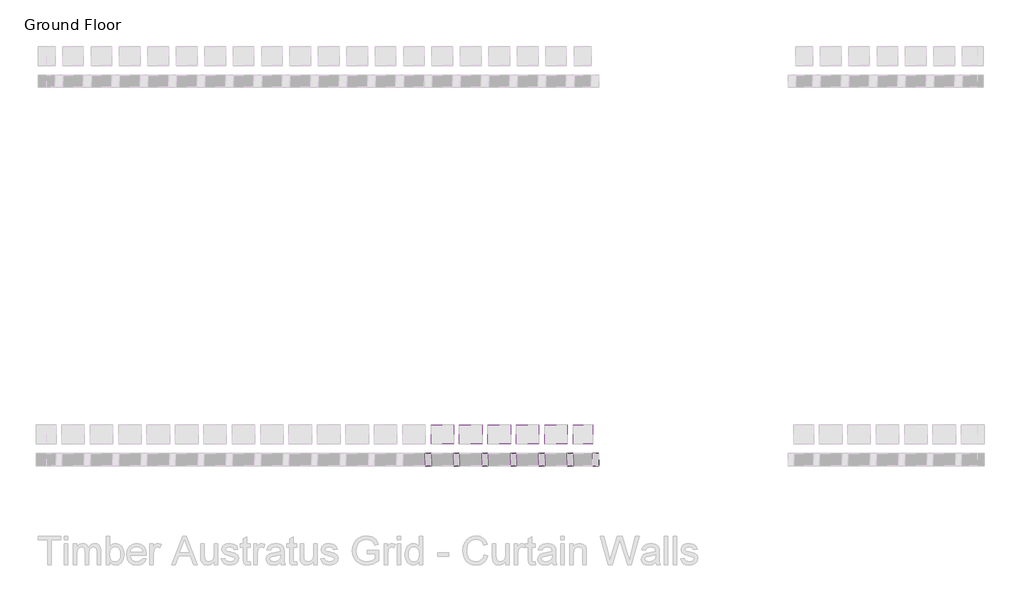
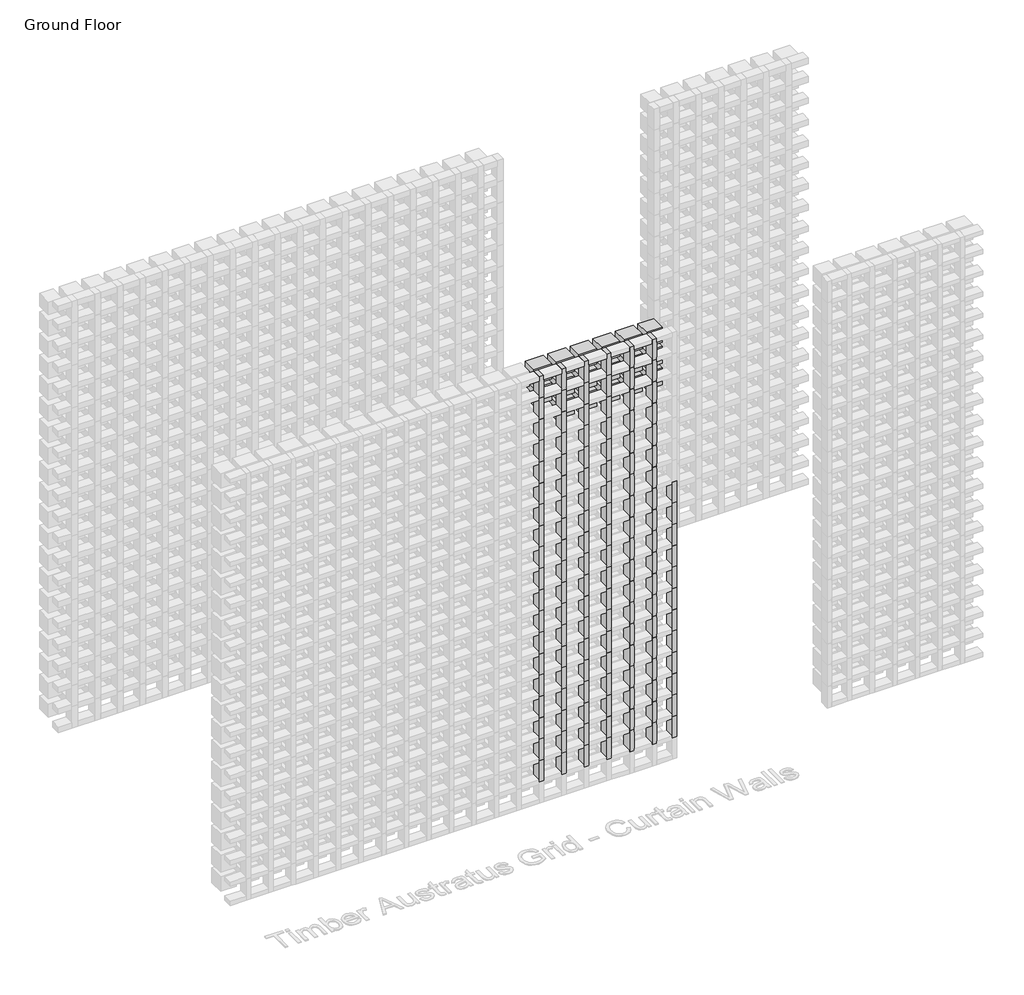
# One storey, part 53 of 350: 126 members, 17 plates.
"""IFC4 building model written with IfcOpenShell, lengths in millimetres."""

from ifc_helpers import new_model, si_unit, origin, place, context, project, spatial, transform, mapped, element, save
from components import rectangular_mullion_5b501421, rectangular_mullion_a9727e9f, empty_system_panel_empty_a57e421f, empty_system_panel_empty_fe50b430, empty_system_panel_empty_3353a095, empty_system_panel_empty_0cf761f0

model = new_model("IFC4")

# Units and contexts
model_context = context("Model", 3, world=origin())
ifc_project = project(units=[si_unit("LENGTHUNIT", "METRE", prefix="MILLI")], contexts=[model_context])

# Site, building, storey
site = spatial("IfcSite", under=ifc_project)
building = spatial("IfcBuilding", under=site)
storey = spatial("IfcBuildingStorey", under=building, Name="Ground Floor", Elevation=0.0)

# Members
placement = place(None, origin())
rectangular_mullion_shape = rectangular_mullion_5b501421(model_context)
element("IfcMember", 1, ObjectType="Rectangular Mullion : Batten_Timber_Modinex_Austratus_Grid_Fascia_30x65_AlaskanYellowCedar", at=placement, inside=storey, context=model_context, shape_type="MappedRepresentation", body=[
    mapped(rectangular_mullion_shape, transform((4016.4361642, 38968.2978302, 150.0), x_axis=(1.0, 0.0, 0.0), y_axis=(0.0, -1.0, 0.0), z_axis=(0.0, 0.0, -1.0))),
])
element("IfcMember", 2, ObjectType="Rectangular Mullion : Batten_Timber_Modinex_Austratus_Grid_Fascia_30x65_AlaskanYellowCedar", at=placement, inside=storey, context=model_context, shape_type="MappedRepresentation", body=[
    mapped(rectangular_mullion_shape, transform((4016.4361642, 38968.2978302, 300.0), x_axis=(1.0, 0.0, 0.0), y_axis=(0.0, -1.0, 0.0), z_axis=(0.0, 0.0, -1.0))),
])
element("IfcMember", 3, ObjectType="Rectangular Mullion : Batten_Timber_Modinex_Austratus_Grid_Fascia_30x65_AlaskanYellowCedar", at=placement, inside=storey, context=model_context, shape_type="MappedRepresentation", body=[
    mapped(rectangular_mullion_shape, transform((4016.4361642, 38968.2978302, 450.0), x_axis=(1.0, 0.0, 0.0), y_axis=(0.0, -1.0, 0.0), z_axis=(0.0, 0.0, -1.0))),
])
element("IfcMember", 4, ObjectType="Rectangular Mullion : Batten_Timber_Modinex_Austratus_Grid_Fascia_30x65_AlaskanYellowCedar", at=placement, inside=storey, context=model_context, shape_type="MappedRepresentation", body=[
    mapped(rectangular_mullion_shape, transform((4016.4361642, 38968.2978302, 600.0), x_axis=(1.0, 0.0, 0.0), y_axis=(0.0, -1.0, 0.0), z_axis=(0.0, 0.0, -1.0))),
])
element("IfcMember", 5, ObjectType="Rectangular Mullion : Batten_Timber_Modinex_Austratus_Grid_Fascia_30x65_AlaskanYellowCedar", at=placement, inside=storey, context=model_context, shape_type="MappedRepresentation", body=[
    mapped(rectangular_mullion_shape, transform((4016.4361642, 38968.2978302, 750.0), x_axis=(1.0, 0.0, 0.0), y_axis=(0.0, -1.0, 0.0), z_axis=(0.0, 0.0, -1.0))),
])
element("IfcMember", 6, ObjectType="Rectangular Mullion : Batten_Timber_Modinex_Austratus_Grid_Fascia_30x65_AlaskanYellowCedar", at=placement, inside=storey, context=model_context, shape_type="MappedRepresentation", body=[
    mapped(rectangular_mullion_shape, transform((4016.4361642, 38968.2978302, 900.0), x_axis=(1.0, 0.0, 0.0), y_axis=(0.0, -1.0, 0.0), z_axis=(0.0, 0.0, -1.0))),
])
element("IfcMember", 7, ObjectType="Rectangular Mullion : Batten_Timber_Modinex_Austratus_Grid_Fascia_30x65_AlaskanYellowCedar", at=placement, inside=storey, context=model_context, shape_type="MappedRepresentation", body=[
    mapped(rectangular_mullion_shape, transform((4016.4361642, 38968.2978302, 1050.0), x_axis=(1.0, 0.0, 0.0), y_axis=(0.0, -1.0, 0.0), z_axis=(0.0, 0.0, -1.0))),
])
element("IfcMember", 8, ObjectType="Rectangular Mullion : Batten_Timber_Modinex_Austratus_Grid_Fascia_30x65_AlaskanYellowCedar", at=placement, inside=storey, context=model_context, shape_type="MappedRepresentation", body=[
    mapped(rectangular_mullion_shape, transform((4016.4361642, 38968.2978302, 1200.0), x_axis=(1.0, 0.0, 0.0), y_axis=(0.0, -1.0, 0.0), z_axis=(0.0, 0.0, -1.0))),
])
element("IfcMember", 9, ObjectType="Rectangular Mullion : Batten_Timber_Modinex_Austratus_Grid_Fascia_30x65_AlaskanYellowCedar", at=placement, inside=storey, context=model_context, shape_type="MappedRepresentation", body=[
    mapped(rectangular_mullion_shape, transform((4016.4361642, 38968.2978302, 1350.0), x_axis=(1.0, 0.0, 0.0), y_axis=(0.0, -1.0, 0.0), z_axis=(0.0, 0.0, -1.0))),
])
element("IfcMember", 10, ObjectType="Rectangular Mullion : Batten_Timber_Modinex_Austratus_Grid_Fascia_30x65_AlaskanYellowCedar", at=placement, inside=storey, context=model_context, shape_type="MappedRepresentation", body=[
    mapped(rectangular_mullion_shape, transform((4016.4361642, 38968.2978302, 1500.0), x_axis=(1.0, 0.0, 0.0), y_axis=(0.0, -1.0, 0.0), z_axis=(0.0, 0.0, -1.0))),
])
element("IfcMember", 11, ObjectType="Rectangular Mullion : Batten_Timber_Modinex_Austratus_Grid_Fascia_30x65_AlaskanYellowCedar", at=placement, inside=storey, context=model_context, shape_type="MappedRepresentation", body=[
    mapped(rectangular_mullion_shape, transform((4016.4361642, 38968.2978302, 1650.0), x_axis=(1.0, 0.0, 0.0), y_axis=(0.0, -1.0, 0.0), z_axis=(0.0, 0.0, -1.0))),
])
element("IfcMember", 12, ObjectType="Rectangular Mullion : Batten_Timber_Modinex_Austratus_Grid_Fascia_30x65_AlaskanYellowCedar", at=placement, inside=storey, context=model_context, shape_type="MappedRepresentation", body=[
    mapped(rectangular_mullion_shape, transform((4016.4361642, 38968.2978302, 1800.0), x_axis=(1.0, 0.0, 0.0), y_axis=(0.0, -1.0, 0.0), z_axis=(0.0, 0.0, -1.0))),
])
element("IfcMember", 13, ObjectType="Rectangular Mullion : Batten_Timber_Modinex_Austratus_Grid_Fascia_30x65_AlaskanYellowCedar", at=placement, inside=storey, context=model_context, shape_type="MappedRepresentation", body=[
    mapped(rectangular_mullion_shape, transform((4016.4361642, 38968.2978302, 1950.0), x_axis=(1.0, 0.0, 0.0), y_axis=(0.0, -1.0, 0.0), z_axis=(0.0, 0.0, -1.0))),
])
element("IfcMember", 14, ObjectType="Rectangular Mullion : Batten_Timber_Modinex_Austratus_Grid_Fascia_30x65_AlaskanYellowCedar", at=placement, inside=storey, context=model_context, shape_type="MappedRepresentation", body=[
    mapped(rectangular_mullion_shape, transform((4016.4361642, 38968.2978302, 2100.0), x_axis=(1.0, 0.0, 0.0), y_axis=(0.0, -1.0, 0.0), z_axis=(0.0, 0.0, -1.0))),
])
element("IfcMember", 15, ObjectType="Rectangular Mullion : Batten_Timber_Modinex_Austratus_Grid_Fascia_30x65_AlaskanYellowCedar", at=placement, inside=storey, context=model_context, shape_type="MappedRepresentation", body=[
    mapped(rectangular_mullion_shape, transform((4016.4361642, 38968.2978302, 2250.0), x_axis=(1.0, 0.0, 0.0), y_axis=(0.0, -1.0, 0.0), z_axis=(0.0, 0.0, -1.0))),
])
element("IfcMember", 16, ObjectType="Rectangular Mullion : Batten_Timber_Modinex_Austratus_Grid_Fascia_30x65_AlaskanYellowCedar", at=placement, inside=storey, context=model_context, shape_type="MappedRepresentation", body=[
    mapped(rectangular_mullion_shape, transform((4016.4361642, 38968.2978302, 2400.0), x_axis=(1.0, 0.0, 0.0), y_axis=(0.0, -1.0, 0.0), z_axis=(0.0, 0.0, -1.0))),
])
element("IfcMember", 17, ObjectType="Rectangular Mullion : Batten_Timber_Modinex_Austratus_Grid_Fascia_30x65_AlaskanYellowCedar", at=placement, inside=storey, context=model_context, shape_type="MappedRepresentation", body=[
    mapped(rectangular_mullion_shape, transform((4016.4361642, 38968.2978302, 2550.0), x_axis=(1.0, 0.0, 0.0), y_axis=(0.0, -1.0, 0.0), z_axis=(0.0, 0.0, -1.0))),
])
element("IfcMember", 18, ObjectType="Rectangular Mullion : Batten_Timber_Modinex_Austratus_Grid_Fascia_30x65_AlaskanYellowCedar", at=placement, inside=storey, context=model_context, shape_type="MappedRepresentation", body=[
    mapped(rectangular_mullion_shape, transform((4016.4361642, 38968.2978302, 2700.0), x_axis=(1.0, 0.0, 0.0), y_axis=(0.0, -1.0, 0.0), z_axis=(0.0, 0.0, -1.0))),
])
element("IfcMember", 19, ObjectType="Rectangular Mullion : Batten_Timber_Modinex_Austratus_Grid_Fascia_30x65_AlaskanYellowCedar", at=placement, inside=storey, context=model_context, shape_type="MappedRepresentation", body=[
    mapped(rectangular_mullion_shape, transform((4166.4361642, 38968.2978302, 150.0), x_axis=(1.0, 0.0, 0.0), y_axis=(0.0, -1.0, 0.0), z_axis=(0.0, 0.0, -1.0))),
])
element("IfcMember", 20, ObjectType="Rectangular Mullion : Batten_Timber_Modinex_Austratus_Grid_Fascia_30x65_AlaskanYellowCedar", at=placement, inside=storey, context=model_context, shape_type="MappedRepresentation", body=[
    mapped(rectangular_mullion_shape, transform((4166.4361642, 38968.2978302, 300.0), x_axis=(1.0, 0.0, 0.0), y_axis=(0.0, -1.0, 0.0), z_axis=(0.0, 0.0, -1.0))),
])
element("IfcMember", 21, ObjectType="Rectangular Mullion : Batten_Timber_Modinex_Austratus_Grid_Fascia_30x65_AlaskanYellowCedar", at=placement, inside=storey, context=model_context, shape_type="MappedRepresentation", body=[
    mapped(rectangular_mullion_shape, transform((4166.4361642, 38968.2978302, 450.0), x_axis=(1.0, 0.0, 0.0), y_axis=(0.0, -1.0, 0.0), z_axis=(0.0, 0.0, -1.0))),
])
element("IfcMember", 22, ObjectType="Rectangular Mullion : Batten_Timber_Modinex_Austratus_Grid_Fascia_30x65_AlaskanYellowCedar", at=placement, inside=storey, context=model_context, shape_type="MappedRepresentation", body=[
    mapped(rectangular_mullion_shape, transform((4166.4361642, 38968.2978302, 600.0), x_axis=(1.0, 0.0, 0.0), y_axis=(0.0, -1.0, 0.0), z_axis=(0.0, 0.0, -1.0))),
])
element("IfcMember", 23, ObjectType="Rectangular Mullion : Batten_Timber_Modinex_Austratus_Grid_Fascia_30x65_AlaskanYellowCedar", at=placement, inside=storey, context=model_context, shape_type="MappedRepresentation", body=[
    mapped(rectangular_mullion_shape, transform((4166.4361642, 38968.2978302, 750.0), x_axis=(1.0, 0.0, 0.0), y_axis=(0.0, -1.0, 0.0), z_axis=(0.0, 0.0, -1.0))),
])
element("IfcMember", 24, ObjectType="Rectangular Mullion : Batten_Timber_Modinex_Austratus_Grid_Fascia_30x65_AlaskanYellowCedar", at=placement, inside=storey, context=model_context, shape_type="MappedRepresentation", body=[
    mapped(rectangular_mullion_shape, transform((4166.4361642, 38968.2978302, 900.0), x_axis=(1.0, 0.0, 0.0), y_axis=(0.0, -1.0, 0.0), z_axis=(0.0, 0.0, -1.0))),
])
element("IfcMember", 25, ObjectType="Rectangular Mullion : Batten_Timber_Modinex_Austratus_Grid_Fascia_30x65_AlaskanYellowCedar", at=placement, inside=storey, context=model_context, shape_type="MappedRepresentation", body=[
    mapped(rectangular_mullion_shape, transform((4166.4361642, 38968.2978302, 1050.0), x_axis=(1.0, 0.0, 0.0), y_axis=(0.0, -1.0, 0.0), z_axis=(0.0, 0.0, -1.0))),
])
element("IfcMember", 26, ObjectType="Rectangular Mullion : Batten_Timber_Modinex_Austratus_Grid_Fascia_30x65_AlaskanYellowCedar", at=placement, inside=storey, context=model_context, shape_type="MappedRepresentation", body=[
    mapped(rectangular_mullion_shape, transform((4166.4361642, 38968.2978302, 1200.0), x_axis=(1.0, 0.0, 0.0), y_axis=(0.0, -1.0, 0.0), z_axis=(0.0, 0.0, -1.0))),
])
element("IfcMember", 27, ObjectType="Rectangular Mullion : Batten_Timber_Modinex_Austratus_Grid_Fascia_30x65_AlaskanYellowCedar", at=placement, inside=storey, context=model_context, shape_type="MappedRepresentation", body=[
    mapped(rectangular_mullion_shape, transform((4166.4361642, 38968.2978302, 1350.0), x_axis=(1.0, 0.0, 0.0), y_axis=(0.0, -1.0, 0.0), z_axis=(0.0, 0.0, -1.0))),
])
element("IfcMember", 28, ObjectType="Rectangular Mullion : Batten_Timber_Modinex_Austratus_Grid_Fascia_30x65_AlaskanYellowCedar", at=placement, inside=storey, context=model_context, shape_type="MappedRepresentation", body=[
    mapped(rectangular_mullion_shape, transform((4166.4361642, 38968.2978302, 1500.0), x_axis=(1.0, 0.0, 0.0), y_axis=(0.0, -1.0, 0.0), z_axis=(0.0, 0.0, -1.0))),
])
element("IfcMember", 29, ObjectType="Rectangular Mullion : Batten_Timber_Modinex_Austratus_Grid_Fascia_30x65_AlaskanYellowCedar", at=placement, inside=storey, context=model_context, shape_type="MappedRepresentation", body=[
    mapped(rectangular_mullion_shape, transform((4166.4361642, 38968.2978302, 1650.0), x_axis=(1.0, 0.0, 0.0), y_axis=(0.0, -1.0, 0.0), z_axis=(0.0, 0.0, -1.0))),
])
element("IfcMember", 30, ObjectType="Rectangular Mullion : Batten_Timber_Modinex_Austratus_Grid_Fascia_30x65_AlaskanYellowCedar", at=placement, inside=storey, context=model_context, shape_type="MappedRepresentation", body=[
    mapped(rectangular_mullion_shape, transform((4166.4361642, 38968.2978302, 1800.0), x_axis=(1.0, 0.0, 0.0), y_axis=(0.0, -1.0, 0.0), z_axis=(0.0, 0.0, -1.0))),
])
element("IfcMember", 31, ObjectType="Rectangular Mullion : Batten_Timber_Modinex_Austratus_Grid_Fascia_30x65_AlaskanYellowCedar", at=placement, inside=storey, context=model_context, shape_type="MappedRepresentation", body=[
    mapped(rectangular_mullion_shape, transform((4166.4361642, 38968.2978302, 1950.0), x_axis=(1.0, 0.0, 0.0), y_axis=(0.0, -1.0, 0.0), z_axis=(0.0, 0.0, -1.0))),
])
element("IfcMember", 32, ObjectType="Rectangular Mullion : Batten_Timber_Modinex_Austratus_Grid_Fascia_30x65_AlaskanYellowCedar", at=placement, inside=storey, context=model_context, shape_type="MappedRepresentation", body=[
    mapped(rectangular_mullion_shape, transform((4166.4361642, 38968.2978302, 2100.0), x_axis=(1.0, 0.0, 0.0), y_axis=(0.0, -1.0, 0.0), z_axis=(0.0, 0.0, -1.0))),
])
element("IfcMember", 33, ObjectType="Rectangular Mullion : Batten_Timber_Modinex_Austratus_Grid_Fascia_30x65_AlaskanYellowCedar", at=placement, inside=storey, context=model_context, shape_type="MappedRepresentation", body=[
    mapped(rectangular_mullion_shape, transform((4166.4361642, 38968.2978302, 2250.0), x_axis=(1.0, 0.0, 0.0), y_axis=(0.0, -1.0, 0.0), z_axis=(0.0, 0.0, -1.0))),
])
element("IfcMember", 34, ObjectType="Rectangular Mullion : Batten_Timber_Modinex_Austratus_Grid_Fascia_30x65_AlaskanYellowCedar", at=placement, inside=storey, context=model_context, shape_type="MappedRepresentation", body=[
    mapped(rectangular_mullion_shape, transform((4166.4361642, 38968.2978302, 2400.0), x_axis=(1.0, 0.0, 0.0), y_axis=(0.0, -1.0, 0.0), z_axis=(0.0, 0.0, -1.0))),
])
element("IfcMember", 35, ObjectType="Rectangular Mullion : Batten_Timber_Modinex_Austratus_Grid_Fascia_30x65_AlaskanYellowCedar", at=placement, inside=storey, context=model_context, shape_type="MappedRepresentation", body=[
    mapped(rectangular_mullion_shape, transform((4166.4361642, 38968.2978302, 2550.0), x_axis=(1.0, 0.0, 0.0), y_axis=(0.0, -1.0, 0.0), z_axis=(0.0, 0.0, -1.0))),
])
element("IfcMember", 36, ObjectType="Rectangular Mullion : Batten_Timber_Modinex_Austratus_Grid_Fascia_30x65_AlaskanYellowCedar", at=placement, inside=storey, context=model_context, shape_type="MappedRepresentation", body=[
    mapped(rectangular_mullion_shape, transform((4166.4361642, 38968.2978302, 2700.0), x_axis=(1.0, 0.0, 0.0), y_axis=(0.0, -1.0, 0.0), z_axis=(0.0, 0.0, -1.0))),
])
element("IfcMember", 37, ObjectType="Rectangular Mullion : Batten_Timber_Modinex_Austratus_Grid_Fascia_30x65_AlaskanYellowCedar", at=placement, inside=storey, context=model_context, shape_type="MappedRepresentation", body=[
    mapped(rectangular_mullion_shape, transform((4316.4361642, 38968.2978302, 150.0), x_axis=(1.0, 0.0, 0.0), y_axis=(0.0, -1.0, 0.0), z_axis=(0.0, 0.0, -1.0))),
])
element("IfcMember", 38, ObjectType="Rectangular Mullion : Batten_Timber_Modinex_Austratus_Grid_Fascia_30x65_AlaskanYellowCedar", at=placement, inside=storey, context=model_context, shape_type="MappedRepresentation", body=[
    mapped(rectangular_mullion_shape, transform((4316.4361642, 38968.2978302, 300.0), x_axis=(1.0, 0.0, 0.0), y_axis=(0.0, -1.0, 0.0), z_axis=(0.0, 0.0, -1.0))),
])
element("IfcMember", 39, ObjectType="Rectangular Mullion : Batten_Timber_Modinex_Austratus_Grid_Fascia_30x65_AlaskanYellowCedar", at=placement, inside=storey, context=model_context, shape_type="MappedRepresentation", body=[
    mapped(rectangular_mullion_shape, transform((4316.4361642, 38968.2978302, 450.0), x_axis=(1.0, 0.0, 0.0), y_axis=(0.0, -1.0, 0.0), z_axis=(0.0, 0.0, -1.0))),
])
element("IfcMember", 40, ObjectType="Rectangular Mullion : Batten_Timber_Modinex_Austratus_Grid_Fascia_30x65_AlaskanYellowCedar", at=placement, inside=storey, context=model_context, shape_type="MappedRepresentation", body=[
    mapped(rectangular_mullion_shape, transform((4316.4361642, 38968.2978302, 600.0), x_axis=(1.0, 0.0, 0.0), y_axis=(0.0, -1.0, 0.0), z_axis=(0.0, 0.0, -1.0))),
])
element("IfcMember", 41, ObjectType="Rectangular Mullion : Batten_Timber_Modinex_Austratus_Grid_Fascia_30x65_AlaskanYellowCedar", at=placement, inside=storey, context=model_context, shape_type="MappedRepresentation", body=[
    mapped(rectangular_mullion_shape, transform((4316.4361642, 38968.2978302, 750.0), x_axis=(1.0, 0.0, 0.0), y_axis=(0.0, -1.0, 0.0), z_axis=(0.0, 0.0, -1.0))),
])
element("IfcMember", 42, ObjectType="Rectangular Mullion : Batten_Timber_Modinex_Austratus_Grid_Fascia_30x65_AlaskanYellowCedar", at=placement, inside=storey, context=model_context, shape_type="MappedRepresentation", body=[
    mapped(rectangular_mullion_shape, transform((4316.4361642, 38968.2978302, 900.0), x_axis=(1.0, 0.0, 0.0), y_axis=(0.0, -1.0, 0.0), z_axis=(0.0, 0.0, -1.0))),
])
element("IfcMember", 43, ObjectType="Rectangular Mullion : Batten_Timber_Modinex_Austratus_Grid_Fascia_30x65_AlaskanYellowCedar", at=placement, inside=storey, context=model_context, shape_type="MappedRepresentation", body=[
    mapped(rectangular_mullion_shape, transform((4316.4361642, 38968.2978302, 1050.0), x_axis=(1.0, 0.0, 0.0), y_axis=(0.0, -1.0, 0.0), z_axis=(0.0, 0.0, -1.0))),
])
element("IfcMember", 44, ObjectType="Rectangular Mullion : Batten_Timber_Modinex_Austratus_Grid_Fascia_30x65_AlaskanYellowCedar", at=placement, inside=storey, context=model_context, shape_type="MappedRepresentation", body=[
    mapped(rectangular_mullion_shape, transform((4316.4361642, 38968.2978302, 1200.0), x_axis=(1.0, 0.0, 0.0), y_axis=(0.0, -1.0, 0.0), z_axis=(0.0, 0.0, -1.0))),
])
element("IfcMember", 45, ObjectType="Rectangular Mullion : Batten_Timber_Modinex_Austratus_Grid_Fascia_30x65_AlaskanYellowCedar", at=placement, inside=storey, context=model_context, shape_type="MappedRepresentation", body=[
    mapped(rectangular_mullion_shape, transform((4316.4361642, 38968.2978302, 1350.0), x_axis=(1.0, 0.0, 0.0), y_axis=(0.0, -1.0, 0.0), z_axis=(0.0, 0.0, -1.0))),
])
element("IfcMember", 46, ObjectType="Rectangular Mullion : Batten_Timber_Modinex_Austratus_Grid_Fascia_30x65_AlaskanYellowCedar", at=placement, inside=storey, context=model_context, shape_type="MappedRepresentation", body=[
    mapped(rectangular_mullion_shape, transform((4316.4361642, 38968.2978302, 1500.0), x_axis=(1.0, 0.0, 0.0), y_axis=(0.0, -1.0, 0.0), z_axis=(0.0, 0.0, -1.0))),
])
element("IfcMember", 47, ObjectType="Rectangular Mullion : Batten_Timber_Modinex_Austratus_Grid_Fascia_30x65_AlaskanYellowCedar", at=placement, inside=storey, context=model_context, shape_type="MappedRepresentation", body=[
    mapped(rectangular_mullion_shape, transform((4316.4361642, 38968.2978302, 1650.0), x_axis=(1.0, 0.0, 0.0), y_axis=(0.0, -1.0, 0.0), z_axis=(0.0, 0.0, -1.0))),
])
element("IfcMember", 48, ObjectType="Rectangular Mullion : Batten_Timber_Modinex_Austratus_Grid_Fascia_30x65_AlaskanYellowCedar", at=placement, inside=storey, context=model_context, shape_type="MappedRepresentation", body=[
    mapped(rectangular_mullion_shape, transform((4316.4361642, 38968.2978302, 1800.0), x_axis=(1.0, 0.0, 0.0), y_axis=(0.0, -1.0, 0.0), z_axis=(0.0, 0.0, -1.0))),
])
element("IfcMember", 49, ObjectType="Rectangular Mullion : Batten_Timber_Modinex_Austratus_Grid_Fascia_30x65_AlaskanYellowCedar", at=placement, inside=storey, context=model_context, shape_type="MappedRepresentation", body=[
    mapped(rectangular_mullion_shape, transform((4316.4361642, 38968.2978302, 1950.0), x_axis=(1.0, 0.0, 0.0), y_axis=(0.0, -1.0, 0.0), z_axis=(0.0, 0.0, -1.0))),
])
element("IfcMember", 50, ObjectType="Rectangular Mullion : Batten_Timber_Modinex_Austratus_Grid_Fascia_30x65_AlaskanYellowCedar", at=placement, inside=storey, context=model_context, shape_type="MappedRepresentation", body=[
    mapped(rectangular_mullion_shape, transform((4316.4361642, 38968.2978302, 2100.0), x_axis=(1.0, 0.0, 0.0), y_axis=(0.0, -1.0, 0.0), z_axis=(0.0, 0.0, -1.0))),
])
element("IfcMember", 51, ObjectType="Rectangular Mullion : Batten_Timber_Modinex_Austratus_Grid_Fascia_30x65_AlaskanYellowCedar", at=placement, inside=storey, context=model_context, shape_type="MappedRepresentation", body=[
    mapped(rectangular_mullion_shape, transform((4316.4361642, 38968.2978302, 2250.0), x_axis=(1.0, 0.0, 0.0), y_axis=(0.0, -1.0, 0.0), z_axis=(0.0, 0.0, -1.0))),
])
element("IfcMember", 52, ObjectType="Rectangular Mullion : Batten_Timber_Modinex_Austratus_Grid_Fascia_30x65_AlaskanYellowCedar", at=placement, inside=storey, context=model_context, shape_type="MappedRepresentation", body=[
    mapped(rectangular_mullion_shape, transform((4316.4361642, 38968.2978302, 2400.0), x_axis=(1.0, 0.0, 0.0), y_axis=(0.0, -1.0, 0.0), z_axis=(0.0, 0.0, -1.0))),
])
element("IfcMember", 53, ObjectType="Rectangular Mullion : Batten_Timber_Modinex_Austratus_Grid_Fascia_30x65_AlaskanYellowCedar", at=placement, inside=storey, context=model_context, shape_type="MappedRepresentation", body=[
    mapped(rectangular_mullion_shape, transform((4316.4361642, 38968.2978302, 2550.0), x_axis=(1.0, 0.0, 0.0), y_axis=(0.0, -1.0, 0.0), z_axis=(0.0, 0.0, -1.0))),
])
element("IfcMember", 54, ObjectType="Rectangular Mullion : Batten_Timber_Modinex_Austratus_Grid_Fascia_30x65_AlaskanYellowCedar", at=placement, inside=storey, context=model_context, shape_type="MappedRepresentation", body=[
    mapped(rectangular_mullion_shape, transform((4316.4361642, 38968.2978302, 2700.0), x_axis=(1.0, 0.0, 0.0), y_axis=(0.0, -1.0, 0.0), z_axis=(0.0, 0.0, -1.0))),
])
element("IfcMember", 55, ObjectType="Rectangular Mullion : Batten_Timber_Modinex_Austratus_Grid_Fascia_30x65_AlaskanYellowCedar", at=placement, inside=storey, context=model_context, shape_type="MappedRepresentation", body=[
    mapped(rectangular_mullion_shape, transform((4466.4361642, 38968.2978302, 150.0), x_axis=(1.0, 0.0, 0.0), y_axis=(0.0, -1.0, 0.0), z_axis=(0.0, 0.0, -1.0))),
])
element("IfcMember", 56, ObjectType="Rectangular Mullion : Batten_Timber_Modinex_Austratus_Grid_Fascia_30x65_AlaskanYellowCedar", at=placement, inside=storey, context=model_context, shape_type="MappedRepresentation", body=[
    mapped(rectangular_mullion_shape, transform((4466.4361642, 38968.2978302, 300.0), x_axis=(1.0, 0.0, 0.0), y_axis=(0.0, -1.0, 0.0), z_axis=(0.0, 0.0, -1.0))),
])
element("IfcMember", 57, ObjectType="Rectangular Mullion : Batten_Timber_Modinex_Austratus_Grid_Fascia_30x65_AlaskanYellowCedar", at=placement, inside=storey, context=model_context, shape_type="MappedRepresentation", body=[
    mapped(rectangular_mullion_shape, transform((4466.4361642, 38968.2978302, 450.0), x_axis=(1.0, 0.0, 0.0), y_axis=(0.0, -1.0, 0.0), z_axis=(0.0, 0.0, -1.0))),
])
element("IfcMember", 58, ObjectType="Rectangular Mullion : Batten_Timber_Modinex_Austratus_Grid_Fascia_30x65_AlaskanYellowCedar", at=placement, inside=storey, context=model_context, shape_type="MappedRepresentation", body=[
    mapped(rectangular_mullion_shape, transform((4466.4361642, 38968.2978302, 600.0), x_axis=(1.0, 0.0, 0.0), y_axis=(0.0, -1.0, 0.0), z_axis=(0.0, 0.0, -1.0))),
])
element("IfcMember", 59, ObjectType="Rectangular Mullion : Batten_Timber_Modinex_Austratus_Grid_Fascia_30x65_AlaskanYellowCedar", at=placement, inside=storey, context=model_context, shape_type="MappedRepresentation", body=[
    mapped(rectangular_mullion_shape, transform((4466.4361642, 38968.2978302, 750.0), x_axis=(1.0, 0.0, 0.0), y_axis=(0.0, -1.0, 0.0), z_axis=(0.0, 0.0, -1.0))),
])
element("IfcMember", 60, ObjectType="Rectangular Mullion : Batten_Timber_Modinex_Austratus_Grid_Fascia_30x65_AlaskanYellowCedar", at=placement, inside=storey, context=model_context, shape_type="MappedRepresentation", body=[
    mapped(rectangular_mullion_shape, transform((4466.4361642, 38968.2978302, 900.0), x_axis=(1.0, 0.0, 0.0), y_axis=(0.0, -1.0, 0.0), z_axis=(0.0, 0.0, -1.0))),
])
element("IfcMember", 61, ObjectType="Rectangular Mullion : Batten_Timber_Modinex_Austratus_Grid_Fascia_30x65_AlaskanYellowCedar", at=placement, inside=storey, context=model_context, shape_type="MappedRepresentation", body=[
    mapped(rectangular_mullion_shape, transform((4466.4361642, 38968.2978302, 1050.0), x_axis=(1.0, 0.0, 0.0), y_axis=(0.0, -1.0, 0.0), z_axis=(0.0, 0.0, -1.0))),
])
element("IfcMember", 62, ObjectType="Rectangular Mullion : Batten_Timber_Modinex_Austratus_Grid_Fascia_30x65_AlaskanYellowCedar", at=placement, inside=storey, context=model_context, shape_type="MappedRepresentation", body=[
    mapped(rectangular_mullion_shape, transform((4466.4361642, 38968.2978302, 1200.0), x_axis=(1.0, 0.0, 0.0), y_axis=(0.0, -1.0, 0.0), z_axis=(0.0, 0.0, -1.0))),
])
element("IfcMember", 63, ObjectType="Rectangular Mullion : Batten_Timber_Modinex_Austratus_Grid_Fascia_30x65_AlaskanYellowCedar", at=placement, inside=storey, context=model_context, shape_type="MappedRepresentation", body=[
    mapped(rectangular_mullion_shape, transform((4466.4361642, 38968.2978302, 1350.0), x_axis=(1.0, 0.0, 0.0), y_axis=(0.0, -1.0, 0.0), z_axis=(0.0, 0.0, -1.0))),
])
element("IfcMember", 64, ObjectType="Rectangular Mullion : Batten_Timber_Modinex_Austratus_Grid_Fascia_30x65_AlaskanYellowCedar", at=placement, inside=storey, context=model_context, shape_type="MappedRepresentation", body=[
    mapped(rectangular_mullion_shape, transform((4466.4361642, 38968.2978302, 1500.0), x_axis=(1.0, 0.0, 0.0), y_axis=(0.0, -1.0, 0.0), z_axis=(0.0, 0.0, -1.0))),
])
element("IfcMember", 65, ObjectType="Rectangular Mullion : Batten_Timber_Modinex_Austratus_Grid_Fascia_30x65_AlaskanYellowCedar", at=placement, inside=storey, context=model_context, shape_type="MappedRepresentation", body=[
    mapped(rectangular_mullion_shape, transform((4466.4361642, 38968.2978302, 1650.0), x_axis=(1.0, 0.0, 0.0), y_axis=(0.0, -1.0, 0.0), z_axis=(0.0, 0.0, -1.0))),
])
element("IfcMember", 66, ObjectType="Rectangular Mullion : Batten_Timber_Modinex_Austratus_Grid_Fascia_30x65_AlaskanYellowCedar", at=placement, inside=storey, context=model_context, shape_type="MappedRepresentation", body=[
    mapped(rectangular_mullion_shape, transform((4466.4361642, 38968.2978302, 1800.0), x_axis=(1.0, 0.0, 0.0), y_axis=(0.0, -1.0, 0.0), z_axis=(0.0, 0.0, -1.0))),
])
element("IfcMember", 67, ObjectType="Rectangular Mullion : Batten_Timber_Modinex_Austratus_Grid_Fascia_30x65_AlaskanYellowCedar", at=placement, inside=storey, context=model_context, shape_type="MappedRepresentation", body=[
    mapped(rectangular_mullion_shape, transform((4466.4361642, 38968.2978302, 1950.0), x_axis=(1.0, 0.0, 0.0), y_axis=(0.0, -1.0, 0.0), z_axis=(0.0, 0.0, -1.0))),
])
element("IfcMember", 68, ObjectType="Rectangular Mullion : Batten_Timber_Modinex_Austratus_Grid_Fascia_30x65_AlaskanYellowCedar", at=placement, inside=storey, context=model_context, shape_type="MappedRepresentation", body=[
    mapped(rectangular_mullion_shape, transform((4466.4361642, 38968.2978302, 2100.0), x_axis=(1.0, 0.0, 0.0), y_axis=(0.0, -1.0, 0.0), z_axis=(0.0, 0.0, -1.0))),
])
element("IfcMember", 69, ObjectType="Rectangular Mullion : Batten_Timber_Modinex_Austratus_Grid_Fascia_30x65_AlaskanYellowCedar", at=placement, inside=storey, context=model_context, shape_type="MappedRepresentation", body=[
    mapped(rectangular_mullion_shape, transform((4466.4361642, 38968.2978302, 2250.0), x_axis=(1.0, 0.0, 0.0), y_axis=(0.0, -1.0, 0.0), z_axis=(0.0, 0.0, -1.0))),
])
element("IfcMember", 70, ObjectType="Rectangular Mullion : Batten_Timber_Modinex_Austratus_Grid_Fascia_30x65_AlaskanYellowCedar", at=placement, inside=storey, context=model_context, shape_type="MappedRepresentation", body=[
    mapped(rectangular_mullion_shape, transform((4466.4361642, 38968.2978302, 2400.0), x_axis=(1.0, 0.0, 0.0), y_axis=(0.0, -1.0, 0.0), z_axis=(0.0, 0.0, -1.0))),
])
element("IfcMember", 71, ObjectType="Rectangular Mullion : Batten_Timber_Modinex_Austratus_Grid_Fascia_30x65_AlaskanYellowCedar", at=placement, inside=storey, context=model_context, shape_type="MappedRepresentation", body=[
    mapped(rectangular_mullion_shape, transform((4466.4361642, 38968.2978302, 2550.0), x_axis=(1.0, 0.0, 0.0), y_axis=(0.0, -1.0, 0.0), z_axis=(0.0, 0.0, -1.0))),
])
element("IfcMember", 72, ObjectType="Rectangular Mullion : Batten_Timber_Modinex_Austratus_Grid_Fascia_30x65_AlaskanYellowCedar", at=placement, inside=storey, context=model_context, shape_type="MappedRepresentation", body=[
    mapped(rectangular_mullion_shape, transform((4466.4361642, 38968.2978302, 2700.0), x_axis=(1.0, 0.0, 0.0), y_axis=(0.0, -1.0, 0.0), z_axis=(0.0, 0.0, -1.0))),
])
element("IfcMember", 73, ObjectType="Rectangular Mullion : Batten_Timber_Modinex_Austratus_Grid_Fascia_30x65_AlaskanYellowCedar", at=placement, inside=storey, context=model_context, shape_type="MappedRepresentation", body=[
    mapped(rectangular_mullion_shape, transform((4616.4361642, 38968.2978302, 150.0), x_axis=(1.0, 0.0, 0.0), y_axis=(0.0, -1.0, 0.0), z_axis=(0.0, 0.0, -1.0))),
])
element("IfcMember", 74, ObjectType="Rectangular Mullion : Batten_Timber_Modinex_Austratus_Grid_Fascia_30x65_AlaskanYellowCedar", at=placement, inside=storey, context=model_context, shape_type="MappedRepresentation", body=[
    mapped(rectangular_mullion_shape, transform((4616.4361642, 38968.2978302, 300.0), x_axis=(1.0, 0.0, 0.0), y_axis=(0.0, -1.0, 0.0), z_axis=(0.0, 0.0, -1.0))),
])
element("IfcMember", 75, ObjectType="Rectangular Mullion : Batten_Timber_Modinex_Austratus_Grid_Fascia_30x65_AlaskanYellowCedar", at=placement, inside=storey, context=model_context, shape_type="MappedRepresentation", body=[
    mapped(rectangular_mullion_shape, transform((4616.4361642, 38968.2978302, 450.0), x_axis=(1.0, 0.0, 0.0), y_axis=(0.0, -1.0, 0.0), z_axis=(0.0, 0.0, -1.0))),
])
element("IfcMember", 76, ObjectType="Rectangular Mullion : Batten_Timber_Modinex_Austratus_Grid_Fascia_30x65_AlaskanYellowCedar", at=placement, inside=storey, context=model_context, shape_type="MappedRepresentation", body=[
    mapped(rectangular_mullion_shape, transform((4616.4361642, 38968.2978302, 600.0), x_axis=(1.0, 0.0, 0.0), y_axis=(0.0, -1.0, 0.0), z_axis=(0.0, 0.0, -1.0))),
])
element("IfcMember", 77, ObjectType="Rectangular Mullion : Batten_Timber_Modinex_Austratus_Grid_Fascia_30x65_AlaskanYellowCedar", at=placement, inside=storey, context=model_context, shape_type="MappedRepresentation", body=[
    mapped(rectangular_mullion_shape, transform((4616.4361642, 38968.2978302, 750.0), x_axis=(1.0, 0.0, 0.0), y_axis=(0.0, -1.0, 0.0), z_axis=(0.0, 0.0, -1.0))),
])
element("IfcMember", 78, ObjectType="Rectangular Mullion : Batten_Timber_Modinex_Austratus_Grid_Fascia_30x65_AlaskanYellowCedar", at=placement, inside=storey, context=model_context, shape_type="MappedRepresentation", body=[
    mapped(rectangular_mullion_shape, transform((4616.4361642, 38968.2978302, 900.0), x_axis=(1.0, 0.0, 0.0), y_axis=(0.0, -1.0, 0.0), z_axis=(0.0, 0.0, -1.0))),
])
element("IfcMember", 79, ObjectType="Rectangular Mullion : Batten_Timber_Modinex_Austratus_Grid_Fascia_30x65_AlaskanYellowCedar", at=placement, inside=storey, context=model_context, shape_type="MappedRepresentation", body=[
    mapped(rectangular_mullion_shape, transform((4616.4361642, 38968.2978302, 1050.0), x_axis=(1.0, 0.0, 0.0), y_axis=(0.0, -1.0, 0.0), z_axis=(0.0, 0.0, -1.0))),
])
element("IfcMember", 80, ObjectType="Rectangular Mullion : Batten_Timber_Modinex_Austratus_Grid_Fascia_30x65_AlaskanYellowCedar", at=placement, inside=storey, context=model_context, shape_type="MappedRepresentation", body=[
    mapped(rectangular_mullion_shape, transform((4616.4361642, 38968.2978302, 1200.0), x_axis=(1.0, 0.0, 0.0), y_axis=(0.0, -1.0, 0.0), z_axis=(0.0, 0.0, -1.0))),
])
element("IfcMember", 81, ObjectType="Rectangular Mullion : Batten_Timber_Modinex_Austratus_Grid_Fascia_30x65_AlaskanYellowCedar", at=placement, inside=storey, context=model_context, shape_type="MappedRepresentation", body=[
    mapped(rectangular_mullion_shape, transform((4616.4361642, 38968.2978302, 1350.0), x_axis=(1.0, 0.0, 0.0), y_axis=(0.0, -1.0, 0.0), z_axis=(0.0, 0.0, -1.0))),
])
element("IfcMember", 82, ObjectType="Rectangular Mullion : Batten_Timber_Modinex_Austratus_Grid_Fascia_30x65_AlaskanYellowCedar", at=placement, inside=storey, context=model_context, shape_type="MappedRepresentation", body=[
    mapped(rectangular_mullion_shape, transform((4616.4361642, 38968.2978302, 1500.0), x_axis=(1.0, 0.0, 0.0), y_axis=(0.0, -1.0, 0.0), z_axis=(0.0, 0.0, -1.0))),
])
element("IfcMember", 83, ObjectType="Rectangular Mullion : Batten_Timber_Modinex_Austratus_Grid_Fascia_30x65_AlaskanYellowCedar", at=placement, inside=storey, context=model_context, shape_type="MappedRepresentation", body=[
    mapped(rectangular_mullion_shape, transform((4616.4361642, 38968.2978302, 1650.0), x_axis=(1.0, 0.0, 0.0), y_axis=(0.0, -1.0, 0.0), z_axis=(0.0, 0.0, -1.0))),
])
element("IfcMember", 84, ObjectType="Rectangular Mullion : Batten_Timber_Modinex_Austratus_Grid_Fascia_30x65_AlaskanYellowCedar", at=placement, inside=storey, context=model_context, shape_type="MappedRepresentation", body=[
    mapped(rectangular_mullion_shape, transform((4616.4361642, 38968.2978302, 1800.0), x_axis=(1.0, 0.0, 0.0), y_axis=(0.0, -1.0, 0.0), z_axis=(0.0, 0.0, -1.0))),
])
element("IfcMember", 85, ObjectType="Rectangular Mullion : Batten_Timber_Modinex_Austratus_Grid_Fascia_30x65_AlaskanYellowCedar", at=placement, inside=storey, context=model_context, shape_type="MappedRepresentation", body=[
    mapped(rectangular_mullion_shape, transform((4616.4361642, 38968.2978302, 1950.0), x_axis=(1.0, 0.0, 0.0), y_axis=(0.0, -1.0, 0.0), z_axis=(0.0, 0.0, -1.0))),
])
element("IfcMember", 86, ObjectType="Rectangular Mullion : Batten_Timber_Modinex_Austratus_Grid_Fascia_30x65_AlaskanYellowCedar", at=placement, inside=storey, context=model_context, shape_type="MappedRepresentation", body=[
    mapped(rectangular_mullion_shape, transform((4616.4361642, 38968.2978302, 2100.0), x_axis=(1.0, 0.0, 0.0), y_axis=(0.0, -1.0, 0.0), z_axis=(0.0, 0.0, -1.0))),
])
element("IfcMember", 87, ObjectType="Rectangular Mullion : Batten_Timber_Modinex_Austratus_Grid_Fascia_30x65_AlaskanYellowCedar", at=placement, inside=storey, context=model_context, shape_type="MappedRepresentation", body=[
    mapped(rectangular_mullion_shape, transform((4616.4361642, 38968.2978302, 2250.0), x_axis=(1.0, 0.0, 0.0), y_axis=(0.0, -1.0, 0.0), z_axis=(0.0, 0.0, -1.0))),
])
element("IfcMember", 88, ObjectType="Rectangular Mullion : Batten_Timber_Modinex_Austratus_Grid_Fascia_30x65_AlaskanYellowCedar", at=placement, inside=storey, context=model_context, shape_type="MappedRepresentation", body=[
    mapped(rectangular_mullion_shape, transform((4616.4361642, 38968.2978302, 2400.0), x_axis=(1.0, 0.0, 0.0), y_axis=(0.0, -1.0, 0.0), z_axis=(0.0, 0.0, -1.0))),
])
element("IfcMember", 89, ObjectType="Rectangular Mullion : Batten_Timber_Modinex_Austratus_Grid_Fascia_30x65_AlaskanYellowCedar", at=placement, inside=storey, context=model_context, shape_type="MappedRepresentation", body=[
    mapped(rectangular_mullion_shape, transform((4616.4361642, 38968.2978302, 2550.0), x_axis=(1.0, 0.0, 0.0), y_axis=(0.0, -1.0, 0.0), z_axis=(0.0, 0.0, -1.0))),
])
element("IfcMember", 90, ObjectType="Rectangular Mullion : Batten_Timber_Modinex_Austratus_Grid_Fascia_30x65_AlaskanYellowCedar", at=placement, inside=storey, context=model_context, shape_type="MappedRepresentation", body=[
    mapped(rectangular_mullion_shape, transform((4616.4361642, 38968.2978302, 2700.0), x_axis=(1.0, 0.0, 0.0), y_axis=(0.0, -1.0, 0.0), z_axis=(0.0, 0.0, -1.0))),
])
element("IfcMember", 91, ObjectType="Rectangular Mullion : Batten_Timber_Modinex_Austratus_Grid_Fascia_30x65_AlaskanYellowCedar", at=placement, inside=storey, context=model_context, shape_type="MappedRepresentation", body=[
    mapped(rectangular_mullion_shape, transform((4766.4361642, 38968.2978302, 150.0), x_axis=(1.0, 0.0, 0.0), y_axis=(0.0, -1.0, 0.0), z_axis=(0.0, 0.0, -1.0))),
])
element("IfcMember", 92, ObjectType="Rectangular Mullion : Batten_Timber_Modinex_Austratus_Grid_Fascia_30x65_AlaskanYellowCedar", at=placement, inside=storey, context=model_context, shape_type="MappedRepresentation", body=[
    mapped(rectangular_mullion_shape, transform((4766.4361642, 38968.2978302, 300.0), x_axis=(1.0, 0.0, 0.0), y_axis=(0.0, -1.0, 0.0), z_axis=(0.0, 0.0, -1.0))),
])
element("IfcMember", 93, ObjectType="Rectangular Mullion : Batten_Timber_Modinex_Austratus_Grid_Fascia_30x65_AlaskanYellowCedar", at=placement, inside=storey, context=model_context, shape_type="MappedRepresentation", body=[
    mapped(rectangular_mullion_shape, transform((4766.4361642, 38968.2978302, 450.0), x_axis=(1.0, 0.0, 0.0), y_axis=(0.0, -1.0, 0.0), z_axis=(0.0, 0.0, -1.0))),
])
element("IfcMember", 94, ObjectType="Rectangular Mullion : Batten_Timber_Modinex_Austratus_Grid_Fascia_30x65_AlaskanYellowCedar", at=placement, inside=storey, context=model_context, shape_type="MappedRepresentation", body=[
    mapped(rectangular_mullion_shape, transform((4766.4361642, 38968.2978302, 600.0), x_axis=(1.0, 0.0, 0.0), y_axis=(0.0, -1.0, 0.0), z_axis=(0.0, 0.0, -1.0))),
])
element("IfcMember", 95, ObjectType="Rectangular Mullion : Batten_Timber_Modinex_Austratus_Grid_Fascia_30x65_AlaskanYellowCedar", at=placement, inside=storey, context=model_context, shape_type="MappedRepresentation", body=[
    mapped(rectangular_mullion_shape, transform((4766.4361642, 38968.2978302, 750.0), x_axis=(1.0, 0.0, 0.0), y_axis=(0.0, -1.0, 0.0), z_axis=(0.0, 0.0, -1.0))),
])
element("IfcMember", 96, ObjectType="Rectangular Mullion : Batten_Timber_Modinex_Austratus_Grid_Fascia_30x65_AlaskanYellowCedar", at=placement, inside=storey, context=model_context, shape_type="MappedRepresentation", body=[
    mapped(rectangular_mullion_shape, transform((4766.4361642, 38968.2978302, 900.0), x_axis=(1.0, 0.0, 0.0), y_axis=(0.0, -1.0, 0.0), z_axis=(0.0, 0.0, -1.0))),
])
element("IfcMember", 97, ObjectType="Rectangular Mullion : Batten_Timber_Modinex_Austratus_Grid_Fascia_30x65_AlaskanYellowCedar", at=placement, inside=storey, context=model_context, shape_type="MappedRepresentation", body=[
    mapped(rectangular_mullion_shape, transform((4766.4361642, 38968.2978302, 1050.0), x_axis=(1.0, 0.0, 0.0), y_axis=(0.0, -1.0, 0.0), z_axis=(0.0, 0.0, -1.0))),
])
element("IfcMember", 98, ObjectType="Rectangular Mullion : Batten_Timber_Modinex_Austratus_Grid_Fascia_30x65_AlaskanYellowCedar", at=placement, inside=storey, context=model_context, shape_type="MappedRepresentation", body=[
    mapped(rectangular_mullion_shape, transform((4766.4361642, 38968.2978302, 1200.0), x_axis=(1.0, 0.0, 0.0), y_axis=(0.0, -1.0, 0.0), z_axis=(0.0, 0.0, -1.0))),
])
element("IfcMember", 99, ObjectType="Rectangular Mullion : Batten_Timber_Modinex_Austratus_Grid_Fascia_30x65_AlaskanYellowCedar", at=placement, inside=storey, context=model_context, shape_type="MappedRepresentation", body=[
    mapped(rectangular_mullion_shape, transform((4766.4361642, 38968.2978302, 1350.0), x_axis=(1.0, 0.0, 0.0), y_axis=(0.0, -1.0, 0.0), z_axis=(0.0, 0.0, -1.0))),
])
element("IfcMember", 100, ObjectType="Rectangular Mullion : Batten_Timber_Modinex_Austratus_Grid_Fascia_30x65_AlaskanYellowCedar", at=placement, inside=storey, context=model_context, shape_type="MappedRepresentation", body=[
    mapped(rectangular_mullion_shape, transform((4766.4361642, 38968.2978302, 1500.0), x_axis=(1.0, 0.0, 0.0), y_axis=(0.0, -1.0, 0.0), z_axis=(0.0, 0.0, -1.0))),
])
element("IfcMember", 101, ObjectType="Rectangular Mullion : Batten_Timber_Modinex_Austratus_Grid_Fascia_30x65_AlaskanYellowCedar", at=placement, inside=storey, context=model_context, shape_type="MappedRepresentation", body=[
    mapped(rectangular_mullion_shape, transform((4766.4361642, 38968.2978302, 1650.0), x_axis=(1.0, 0.0, 0.0), y_axis=(0.0, -1.0, 0.0), z_axis=(0.0, 0.0, -1.0))),
])
element("IfcMember", 102, ObjectType="Rectangular Mullion : Batten_Timber_Modinex_Austratus_Grid_Fascia_30x65_AlaskanYellowCedar", at=placement, inside=storey, context=model_context, shape_type="MappedRepresentation", body=[
    mapped(rectangular_mullion_shape, transform((4766.4361642, 38968.2978302, 1800.0), x_axis=(1.0, 0.0, 0.0), y_axis=(0.0, -1.0, 0.0), z_axis=(0.0, 0.0, -1.0))),
])
element("IfcMember", 103, ObjectType="Rectangular Mullion : Batten_Timber_Modinex_Austratus_Grid_Fascia_30x65_AlaskanYellowCedar", at=placement, inside=storey, context=model_context, shape_type="MappedRepresentation", body=[
    mapped(rectangular_mullion_shape, transform((4766.4361642, 38968.2978302, 1950.0), x_axis=(1.0, 0.0, 0.0), y_axis=(0.0, -1.0, 0.0), z_axis=(0.0, 0.0, -1.0))),
])
element("IfcMember", 104, ObjectType="Rectangular Mullion : Batten_Timber_Modinex_Austratus_Grid_Fascia_30x65_AlaskanYellowCedar", at=placement, inside=storey, context=model_context, shape_type="MappedRepresentation", body=[
    mapped(rectangular_mullion_shape, transform((4766.4361642, 38968.2978302, 2100.0), x_axis=(1.0, 0.0, 0.0), y_axis=(0.0, -1.0, 0.0), z_axis=(0.0, 0.0, -1.0))),
])
element("IfcMember", 105, ObjectType="Rectangular Mullion : Batten_Timber_Modinex_Austratus_Grid_Fascia_30x65_AlaskanYellowCedar", at=placement, inside=storey, context=model_context, shape_type="MappedRepresentation", body=[
    mapped(rectangular_mullion_shape, transform((4766.4361642, 38968.2978302, 2250.0), x_axis=(1.0, 0.0, 0.0), y_axis=(0.0, -1.0, 0.0), z_axis=(0.0, 0.0, -1.0))),
])
element("IfcMember", 106, ObjectType="Rectangular Mullion : Batten_Timber_Modinex_Austratus_Grid_Fascia_30x65_AlaskanYellowCedar", at=placement, inside=storey, context=model_context, shape_type="MappedRepresentation", body=[
    mapped(rectangular_mullion_shape, transform((4766.4361642, 38968.2978302, 2400.0), x_axis=(1.0, 0.0, 0.0), y_axis=(0.0, -1.0, 0.0), z_axis=(0.0, 0.0, -1.0))),
])
element("IfcMember", 107, ObjectType="Rectangular Mullion : Batten_Timber_Modinex_Austratus_Grid_Fascia_30x65_AlaskanYellowCedar", at=placement, inside=storey, context=model_context, shape_type="MappedRepresentation", body=[
    mapped(rectangular_mullion_shape, transform((4766.4361642, 38968.2978302, 2550.0), x_axis=(1.0, 0.0, 0.0), y_axis=(0.0, -1.0, 0.0), z_axis=(0.0, 0.0, -1.0))),
])
element("IfcMember", 108, ObjectType="Rectangular Mullion : Batten_Timber_Modinex_Austratus_Grid_Fascia_30x65_AlaskanYellowCedar", at=placement, inside=storey, context=model_context, shape_type="MappedRepresentation", body=[
    mapped(rectangular_mullion_shape, transform((4766.4361642, 38968.2978302, 2700.0), x_axis=(1.0, 0.0, 0.0), y_axis=(0.0, -1.0, 0.0), z_axis=(0.0, 0.0, -1.0))),
])
rectangular_mullion_2_shape = rectangular_mullion_a9727e9f(model_context)
element("IfcMember", 109, ObjectType="Rectangular Mullion : Batten_Timber_Modinex_Austratus_Grid_Fascia_30x65_AlaskanYellowCedar", at=placement, inside=storey, context=model_context, shape_type="MappedRepresentation", body=[
    mapped(rectangular_mullion_2_shape, transform((4916.4361639, 38968.2978302, 150.0), x_axis=(1.0, 0.0, 0.0), y_axis=(0.0, -1.0, 0.0), z_axis=(0.0, 0.0, -1.0))),
])
element("IfcMember", 110, ObjectType="Rectangular Mullion : Batten_Timber_Modinex_Austratus_Grid_Fascia_30x65_AlaskanYellowCedar", at=placement, inside=storey, context=model_context, shape_type="MappedRepresentation", body=[
    mapped(rectangular_mullion_2_shape, transform((4916.4361639, 38968.2978302, 300.0), x_axis=(1.0, 0.0, 0.0), y_axis=(0.0, -1.0, 0.0), z_axis=(0.0, 0.0, -1.0))),
])
element("IfcMember", 111, ObjectType="Rectangular Mullion : Batten_Timber_Modinex_Austratus_Grid_Fascia_30x65_AlaskanYellowCedar", at=placement, inside=storey, context=model_context, shape_type="MappedRepresentation", body=[
    mapped(rectangular_mullion_2_shape, transform((4916.4361639, 38968.2978302, 450.0), x_axis=(1.0, 0.0, 0.0), y_axis=(0.0, -1.0, 0.0), z_axis=(0.0, 0.0, -1.0))),
])
element("IfcMember", 112, ObjectType="Rectangular Mullion : Batten_Timber_Modinex_Austratus_Grid_Fascia_30x65_AlaskanYellowCedar", at=placement, inside=storey, context=model_context, shape_type="MappedRepresentation", body=[
    mapped(rectangular_mullion_2_shape, transform((4916.4361639, 38968.2978302, 600.0), x_axis=(1.0, 0.0, 0.0), y_axis=(0.0, -1.0, 0.0), z_axis=(0.0, 0.0, -1.0))),
])
element("IfcMember", 113, ObjectType="Rectangular Mullion : Batten_Timber_Modinex_Austratus_Grid_Fascia_30x65_AlaskanYellowCedar", at=placement, inside=storey, context=model_context, shape_type="MappedRepresentation", body=[
    mapped(rectangular_mullion_2_shape, transform((4916.4361639, 38968.2978302, 750.0), x_axis=(1.0, 0.0, 0.0), y_axis=(0.0, -1.0, 0.0), z_axis=(0.0, 0.0, -1.0))),
])
element("IfcMember", 114, ObjectType="Rectangular Mullion : Batten_Timber_Modinex_Austratus_Grid_Fascia_30x65_AlaskanYellowCedar", at=placement, inside=storey, context=model_context, shape_type="MappedRepresentation", body=[
    mapped(rectangular_mullion_2_shape, transform((4916.4361639, 38968.2978302, 900.0), x_axis=(1.0, 0.0, 0.0), y_axis=(0.0, -1.0, 0.0), z_axis=(0.0, 0.0, -1.0))),
])
element("IfcMember", 115, ObjectType="Rectangular Mullion : Batten_Timber_Modinex_Austratus_Grid_Fascia_30x65_AlaskanYellowCedar", at=placement, inside=storey, context=model_context, shape_type="MappedRepresentation", body=[
    mapped(rectangular_mullion_2_shape, transform((4916.4361639, 38968.2978302, 1050.0), x_axis=(1.0, 0.0, 0.0), y_axis=(0.0, -1.0, 0.0), z_axis=(0.0, 0.0, -1.0))),
])
element("IfcMember", 116, ObjectType="Rectangular Mullion : Batten_Timber_Modinex_Austratus_Grid_Fascia_30x65_AlaskanYellowCedar", at=placement, inside=storey, context=model_context, shape_type="MappedRepresentation", body=[
    mapped(rectangular_mullion_2_shape, transform((4916.4361639, 38968.2978302, 1200.0), x_axis=(1.0, 0.0, 0.0), y_axis=(0.0, -1.0, 0.0), z_axis=(0.0, 0.0, -1.0))),
])
element("IfcMember", 117, ObjectType="Rectangular Mullion : Batten_Timber_Modinex_Austratus_Grid_Fascia_30x65_AlaskanYellowCedar", at=placement, inside=storey, context=model_context, shape_type="MappedRepresentation", body=[
    mapped(rectangular_mullion_2_shape, transform((4916.4361639, 38968.2978302, 1350.0), x_axis=(1.0, 0.0, 0.0), y_axis=(0.0, -1.0, 0.0), z_axis=(0.0, 0.0, -1.0))),
])
element("IfcMember", 118, ObjectType="Rectangular Mullion : Batten_Timber_Modinex_Austratus_Grid_Fascia_30x65_AlaskanYellowCedar", at=placement, inside=storey, context=model_context, shape_type="MappedRepresentation", body=[
    mapped(rectangular_mullion_2_shape, transform((4916.4361639, 38968.2978302, 1500.0), x_axis=(1.0, 0.0, 0.0), y_axis=(0.0, -1.0, 0.0), z_axis=(0.0, 0.0, -1.0))),
])
element("IfcMember", 119, ObjectType="Rectangular Mullion : Batten_Timber_Modinex_Austratus_Grid_Fascia_30x65_AlaskanYellowCedar", at=placement, inside=storey, context=model_context, shape_type="MappedRepresentation", body=[
    mapped(rectangular_mullion_2_shape, transform((4916.4361639, 38968.2978302, 1650.0), x_axis=(1.0, 0.0, 0.0), y_axis=(0.0, -1.0, 0.0), z_axis=(0.0, 0.0, -1.0))),
])
element("IfcMember", 120, ObjectType="Rectangular Mullion : Batten_Timber_Modinex_Austratus_Grid_Fascia_30x65_AlaskanYellowCedar", at=placement, inside=storey, context=model_context, shape_type="MappedRepresentation", body=[
    mapped(rectangular_mullion_2_shape, transform((4916.4361639, 38968.2978302, 1800.0), x_axis=(1.0, 0.0, 0.0), y_axis=(0.0, -1.0, 0.0), z_axis=(0.0, 0.0, -1.0))),
])
element("IfcMember", 121, ObjectType="Rectangular Mullion : Batten_Timber_Modinex_Austratus_Grid_Fascia_30x65_AlaskanYellowCedar", at=placement, inside=storey, context=model_context, shape_type="MappedRepresentation", body=[
    mapped(rectangular_mullion_shape, transform((4016.4361642, 38968.2978302, 2850.0), x_axis=(1.0, 0.0, 0.0), y_axis=(0.0, -1.0, 0.0), z_axis=(0.0, 0.0, -1.0))),
])
element("IfcMember", 122, ObjectType="Rectangular Mullion : Batten_Timber_Modinex_Austratus_Grid_Fascia_30x65_AlaskanYellowCedar", at=placement, inside=storey, context=model_context, shape_type="MappedRepresentation", body=[
    mapped(rectangular_mullion_shape, transform((4166.4361642, 38968.2978302, 2850.0), x_axis=(1.0, 0.0, 0.0), y_axis=(0.0, -1.0, 0.0), z_axis=(0.0, 0.0, -1.0))),
])
element("IfcMember", 123, ObjectType="Rectangular Mullion : Batten_Timber_Modinex_Austratus_Grid_Fascia_30x65_AlaskanYellowCedar", at=placement, inside=storey, context=model_context, shape_type="MappedRepresentation", body=[
    mapped(rectangular_mullion_shape, transform((4316.4361642, 38968.2978302, 2850.0), x_axis=(1.0, 0.0, 0.0), y_axis=(0.0, -1.0, 0.0), z_axis=(0.0, 0.0, -1.0))),
])
element("IfcMember", 124, ObjectType="Rectangular Mullion : Batten_Timber_Modinex_Austratus_Grid_Fascia_30x65_AlaskanYellowCedar", at=placement, inside=storey, context=model_context, shape_type="MappedRepresentation", body=[
    mapped(rectangular_mullion_shape, transform((4466.4361642, 38968.2978302, 2850.0), x_axis=(1.0, 0.0, 0.0), y_axis=(0.0, -1.0, 0.0), z_axis=(0.0, 0.0, -1.0))),
])
element("IfcMember", 125, ObjectType="Rectangular Mullion : Batten_Timber_Modinex_Austratus_Grid_Fascia_30x65_AlaskanYellowCedar", at=placement, inside=storey, context=model_context, shape_type="MappedRepresentation", body=[
    mapped(rectangular_mullion_shape, transform((4616.4361642, 38968.2978302, 2850.0), x_axis=(1.0, 0.0, 0.0), y_axis=(0.0, -1.0, 0.0), z_axis=(0.0, 0.0, -1.0))),
])
element("IfcMember", 126, ObjectType="Rectangular Mullion : Batten_Timber_Modinex_Austratus_Grid_Fascia_30x65_AlaskanYellowCedar", at=placement, inside=storey, context=model_context, shape_type="MappedRepresentation", body=[
    mapped(rectangular_mullion_shape, transform((4766.4361642, 38968.2978302, 2850.0), x_axis=(1.0, 0.0, 0.0), y_axis=(0.0, -1.0, 0.0), z_axis=(0.0, 0.0, -1.0))),
])

# Plates
empty_system_panel_empty_shape = empty_system_panel_empty_a57e421f(model_context)
element("IfcPlate", 127, ObjectType="Empty System Panel : Empty", at=placement, inside=storey, context=model_context, shape_type="MappedRepresentation", body=[
    mapped(empty_system_panel_empty_shape, transform((4241.4361642, 38968.2978302, 2565.0), x_axis=(1.0, 0.0, 0.0), y_axis=(0.0, 1.0, 0.0), z_axis=(0.0, 0.0, 1.0))),
])
element("IfcPlate", 128, ObjectType="Empty System Panel : Empty", at=placement, inside=storey, context=model_context, shape_type="MappedRepresentation", body=[
    mapped(empty_system_panel_empty_shape, transform((4391.4361642, 38968.2978302, 2565.0), x_axis=(1.0, 0.0, 0.0), y_axis=(0.0, 1.0, 0.0), z_axis=(0.0, 0.0, 1.0))),
])
element("IfcPlate", 129, ObjectType="Empty System Panel : Empty", at=placement, inside=storey, context=model_context, shape_type="MappedRepresentation", body=[
    mapped(empty_system_panel_empty_shape, transform((4541.4361642, 38968.2978302, 2565.0), x_axis=(1.0, 0.0, 0.0), y_axis=(0.0, 1.0, 0.0), z_axis=(0.0, 0.0, 1.0))),
])
element("IfcPlate", 130, ObjectType="Empty System Panel : Empty", at=placement, inside=storey, context=model_context, shape_type="MappedRepresentation", body=[
    mapped(empty_system_panel_empty_shape, transform((4691.4361642, 38968.2978302, 2565.0), x_axis=(1.0, 0.0, 0.0), y_axis=(0.0, 1.0, 0.0), z_axis=(0.0, 0.0, 1.0))),
])
element("IfcPlate", 131, ObjectType="Empty System Panel : Empty", at=placement, inside=storey, context=model_context, shape_type="MappedRepresentation", body=[
    mapped(empty_system_panel_empty_shape, transform((4091.4361642, 38968.2978302, 2715.0), x_axis=(1.0, 0.0, 0.0), y_axis=(0.0, 1.0, 0.0), z_axis=(0.0, 0.0, 1.0))),
])
element("IfcPlate", 132, ObjectType="Empty System Panel : Empty", at=placement, inside=storey, context=model_context, shape_type="MappedRepresentation", body=[
    mapped(empty_system_panel_empty_shape, transform((4241.4361642, 38968.2978302, 2715.0), x_axis=(1.0, 0.0, 0.0), y_axis=(0.0, 1.0, 0.0), z_axis=(0.0, 0.0, 1.0))),
])
element("IfcPlate", 133, ObjectType="Empty System Panel : Empty", at=placement, inside=storey, context=model_context, shape_type="MappedRepresentation", body=[
    mapped(empty_system_panel_empty_shape, transform((4391.4361642, 38968.2978302, 2715.0), x_axis=(1.0, 0.0, 0.0), y_axis=(0.0, 1.0, 0.0), z_axis=(0.0, 0.0, 1.0))),
])
element("IfcPlate", 134, ObjectType="Empty System Panel : Empty", at=placement, inside=storey, context=model_context, shape_type="MappedRepresentation", body=[
    mapped(empty_system_panel_empty_shape, transform((4541.4361642, 38968.2978302, 2715.0), x_axis=(1.0, 0.0, 0.0), y_axis=(0.0, 1.0, 0.0), z_axis=(0.0, 0.0, 1.0))),
])
element("IfcPlate", 135, ObjectType="Empty System Panel : Empty", at=placement, inside=storey, context=model_context, shape_type="MappedRepresentation", body=[
    mapped(empty_system_panel_empty_shape, transform((4691.4361642, 38968.2978302, 2715.0), x_axis=(1.0, 0.0, 0.0), y_axis=(0.0, 1.0, 0.0), z_axis=(0.0, 0.0, 1.0))),
])
empty_system_panel_empty_2_shape = empty_system_panel_empty_fe50b430(model_context)
element("IfcPlate", 136, ObjectType="Empty System Panel : Empty", at=placement, inside=storey, context=model_context, shape_type="MappedRepresentation", body=[
    mapped(empty_system_panel_empty_2_shape, transform((4091.4361642, 38968.2978302, 2865.0), x_axis=(1.0, 0.0, 0.0), y_axis=(0.0, 1.0, 0.0), z_axis=(0.0, 0.0, 1.0))),
])
element("IfcPlate", 137, ObjectType="Empty System Panel : Empty", at=placement, inside=storey, context=model_context, shape_type="MappedRepresentation", body=[
    mapped(empty_system_panel_empty_2_shape, transform((4241.4361642, 38968.2978302, 2865.0), x_axis=(1.0, 0.0, 0.0), y_axis=(0.0, 1.0, 0.0), z_axis=(0.0, 0.0, 1.0))),
])
element("IfcPlate", 138, ObjectType="Empty System Panel : Empty", at=placement, inside=storey, context=model_context, shape_type="MappedRepresentation", body=[
    mapped(empty_system_panel_empty_2_shape, transform((4391.4361642, 38968.2978302, 2865.0), x_axis=(1.0, 0.0, 0.0), y_axis=(0.0, 1.0, 0.0), z_axis=(0.0, 0.0, 1.0))),
])
element("IfcPlate", 139, ObjectType="Empty System Panel : Empty", at=placement, inside=storey, context=model_context, shape_type="MappedRepresentation", body=[
    mapped(empty_system_panel_empty_2_shape, transform((4541.4361642, 38968.2978302, 2865.0), x_axis=(1.0, 0.0, 0.0), y_axis=(0.0, 1.0, 0.0), z_axis=(0.0, 0.0, 1.0))),
])
element("IfcPlate", 140, ObjectType="Empty System Panel : Empty", at=placement, inside=storey, context=model_context, shape_type="MappedRepresentation", body=[
    mapped(empty_system_panel_empty_2_shape, transform((4691.4361642, 38968.2978302, 2865.0), x_axis=(1.0, 0.0, 0.0), y_axis=(0.0, 1.0, 0.0), z_axis=(0.0, 0.0, 1.0))),
])
empty_system_panel_empty_3_shape = empty_system_panel_empty_3353a095(model_context)
element("IfcPlate", 141, ObjectType="Empty System Panel : Empty", at=placement, inside=storey, context=model_context, shape_type="MappedRepresentation", body=[
    mapped(empty_system_panel_empty_3_shape, transform((4833.9361641, 38968.2978302, 2865.0), x_axis=(1.0, 0.0, 0.0), y_axis=(0.0, 1.0, 0.0), z_axis=(0.0, 0.0, 1.0))),
])
empty_system_panel_empty_4_shape = empty_system_panel_empty_0cf761f0(model_context)
element("IfcPlate", 142, ObjectType="Empty System Panel : Empty", at=placement, inside=storey, context=model_context, shape_type="MappedRepresentation", body=[
    mapped(empty_system_panel_empty_4_shape, transform((4833.9361641, 38968.2978302, 2565.0), x_axis=(1.0, 0.0, 0.0), y_axis=(0.0, 1.0, 0.0), z_axis=(0.0, 0.0, 1.0))),
])
element("IfcPlate", 143, ObjectType="Empty System Panel : Empty", at=placement, inside=storey, context=model_context, shape_type="MappedRepresentation", body=[
    mapped(empty_system_panel_empty_4_shape, transform((4833.9361641, 38968.2978302, 2715.0), x_axis=(1.0, 0.0, 0.0), y_axis=(0.0, 1.0, 0.0), z_axis=(0.0, 0.0, 1.0))),
])

save(model, "model.ifc")
